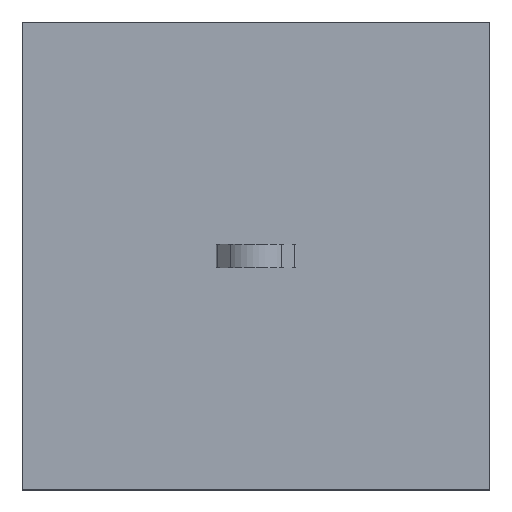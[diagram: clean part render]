
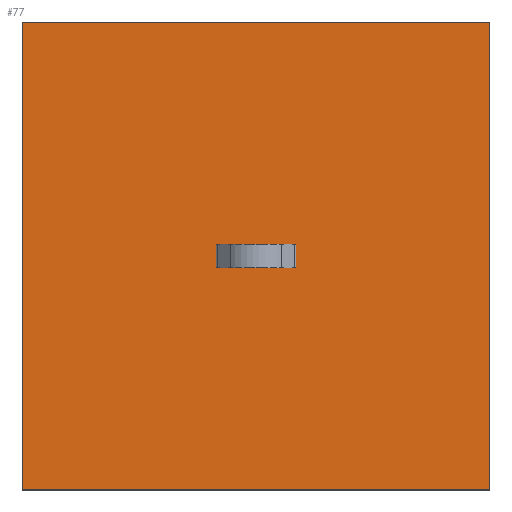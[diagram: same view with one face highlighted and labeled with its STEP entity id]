
A CAD part, top view. The second image highlights one B-rep face of the part: STEP entity #77.
In plain terms, the highlighted planar face has unit normal (0, 0, 1).
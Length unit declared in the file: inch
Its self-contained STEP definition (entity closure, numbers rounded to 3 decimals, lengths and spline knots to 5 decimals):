
#77=ADVANCED_FACE('',(#100,#101),#102,.F.);
#100=FACE_BOUND('',#142,.T.);
#101=FACE_OUTER_BOUND('',#143,.T.);
#102=PLANE('',#144);
#142=EDGE_LOOP('',(#194,#195,#196,#197));
#143=EDGE_LOOP('',(#198,#199,#200,#201));
#144=AXIS2_PLACEMENT_3D('',#202,#203,#204);
#194=ORIENTED_EDGE('',*,*,#351,.F.);
#195=ORIENTED_EDGE('',*,*,#352,.F.);
#196=ORIENTED_EDGE('',*,*,#353,.T.);
#197=ORIENTED_EDGE('',*,*,#354,.T.);
#198=ORIENTED_EDGE('',*,*,#344,.F.);
#199=ORIENTED_EDGE('',*,*,#355,.T.);
#200=ORIENTED_EDGE('',*,*,#356,.T.);
#201=ORIENTED_EDGE('',*,*,#348,.T.);
#202=CARTESIAN_POINT('',(-0.6,0.0,0.));
#203=DIRECTION('',(0.,0.,-1.0));
#204=DIRECTION('',(1.0,0.,0.));
#344=EDGE_CURVE('',#396,#397,#398,.T.);
#348=EDGE_CURVE('',#404,#397,#405,.F.);
#351=EDGE_CURVE('',#409,#410,#411,.T.);
#352=EDGE_CURVE('',#412,#409,#413,.T.);
#353=EDGE_CURVE('',#412,#414,#415,.T.);
#354=EDGE_CURVE('',#414,#410,#416,.T.);
#355=EDGE_CURVE('',#396,#417,#418,.T.);
#356=EDGE_CURVE('',#417,#404,#419,.T.);
#396=VERTEX_POINT('',#480);
#397=VERTEX_POINT('',#481);
#398=LINE('',#482,#483);
#404=VERTEX_POINT('',#492);
#405=LINE('',#493,#494);
#409=VERTEX_POINT('',#500);
#410=VERTEX_POINT('',#501);
#411=LINE('',#502,#503);
#412=VERTEX_POINT('',#504);
#413=LINE('',#505,#506);
#414=VERTEX_POINT('',#507);
#415=LINE('',#508,#509);
#416=LINE('',#510,#511);
#417=VERTEX_POINT('',#512);
#418=LINE('',#513,#514);
#419=LINE('',#515,#516);
#480=CARTESIAN_POINT('',(-0.85,1.122,0.));
#481=CARTESIAN_POINT('',(-0.85,-0.878,0.));
#482=CARTESIAN_POINT('',(-0.85,10588.10559,0.));
#483=VECTOR('',#604,1.0);
#492=CARTESIAN_POINT('',(-2.85,-0.878,0.));
#493=CARTESIAN_POINT('',(-0.575,-0.878,0.));
#494=VECTOR('',#608,1.0);
#500=CARTESIAN_POINT('',(-1.67986,0.072,0.));
#501=CARTESIAN_POINT('',(-1.67986,0.172,0.));
#502=CARTESIAN_POINT('',(-1.67986,0.072,0.));
#503=VECTOR('',#611,0.1);
#504=CARTESIAN_POINT('',(-2.02014,0.072,0.));
#505=CARTESIAN_POINT('',(-2.02014,0.072,0.));
#506=VECTOR('',#612,0.34027);
#507=CARTESIAN_POINT('',(-2.02014,0.172,0.));
#508=CARTESIAN_POINT('',(-2.02014,0.072,0.));
#509=VECTOR('',#613,0.1);
#510=CARTESIAN_POINT('',(-2.02014,0.172,0.));
#511=VECTOR('',#614,0.34027);
#512=CARTESIAN_POINT('',(-2.85,1.122,0.));
#513=CARTESIAN_POINT('',(-0.575,1.122,0.));
#514=VECTOR('',#615,1.0);
#515=CARTESIAN_POINT('',(-2.85,11705.00455,0.));
#516=VECTOR('',#616,1.0);
#604=DIRECTION('',(0.0,-1.0,0.));
#608=DIRECTION('',(-1.0,0.,0.));
#611=DIRECTION('',(0.,1.0,0.));
#612=DIRECTION('',(1.0,0.,0.));
#613=DIRECTION('',(0.,1.0,0.));
#614=DIRECTION('',(1.0,0.,0.));
#615=DIRECTION('',(-1.0,0.,0.));
#616=DIRECTION('',(0.0,-1.0,0.));
